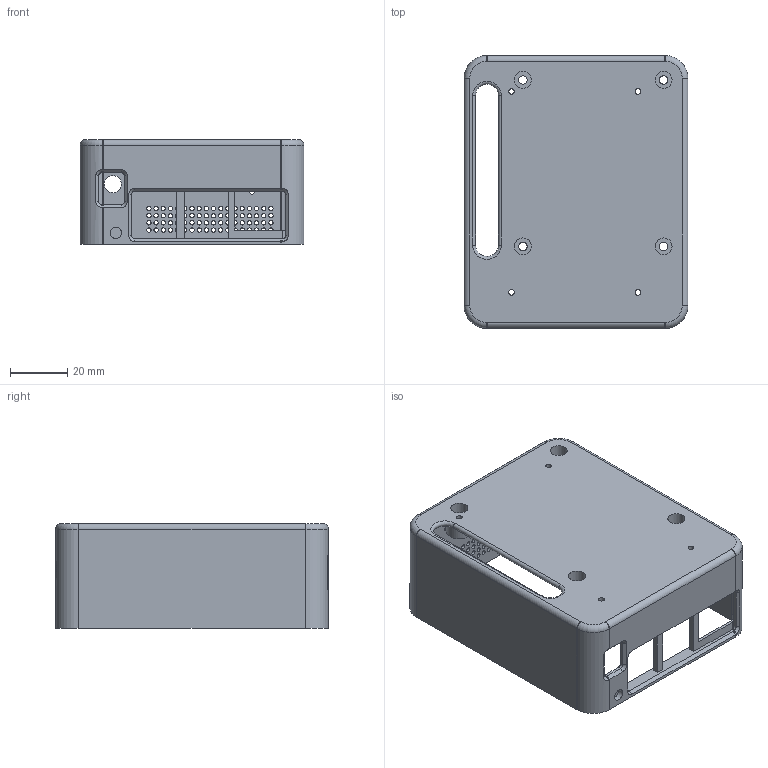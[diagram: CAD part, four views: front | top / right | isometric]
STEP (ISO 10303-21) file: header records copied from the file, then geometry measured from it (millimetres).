
FILE_DESCRIPTION(/* description */ (''),/* implementation_level */ '2;1');
FILE_NAME(/* name */ 'comuter case v70.step',/* time_stamp */ '2025-07-16T17:30:37+08:00',/* author */ (''),/* organization */ (''),/* preprocessor_version */ 'ST-DEVELOPER v20.1',/* originating_system */ 'Autodesk Translation Framework v14.10.0.0',/* authorisation */ '');
FILE_SCHEMA (('AUTOMOTIVE_DESIGN { 1 0 10303 214 3 1 1 }'));
Length unit declared in the file: millimetre
Products named in the file (1): comuter case
Bounding box: 78 x 95 x 36.5 mm (x, y, z)
Volume: 35128.9 mm3; surface area: 38264.5 mm2
Topology: 1 solids, 1 shells, 418 faces, 1127 edges, 711 vertices
Faces by surface type: cylinder 235, plane 94, torus 32, bspline 31, cone 26
Full cylindrical faces by diameter (mm): 1.5 x108, 1.95 x4, 2.95 x4, 4 x3, 5.95 x4, 9 x4
Entity records: 14509 total; most frequent: CARTESIAN_POINT 3259, DIRECTION 2403, ORIENTED_EDGE 2246, EDGE_CURVE 1123, AXIS2_PLACEMENT_3D 956, VERTEX_POINT 709, EDGE_LOOP 672, CIRCLE 569
